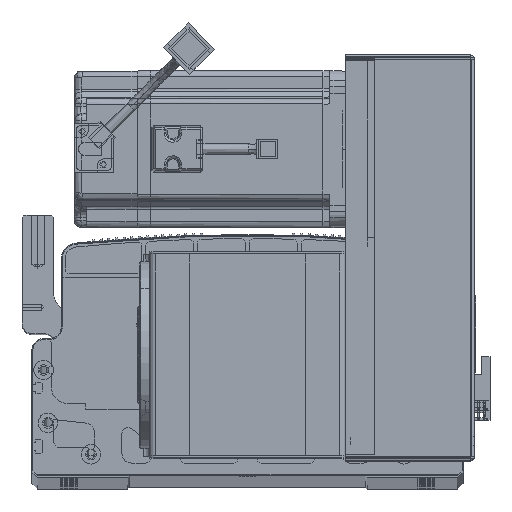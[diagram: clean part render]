
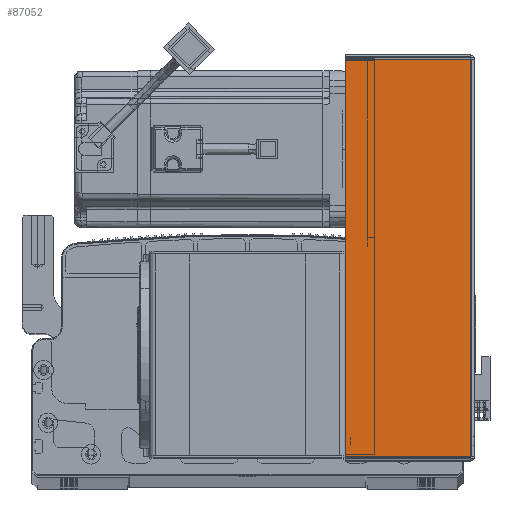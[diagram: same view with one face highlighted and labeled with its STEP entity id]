
A CAD part, top view. The second image highlights one B-rep face of the part: STEP entity #87052.
In plain terms, the highlighted planar face has unit normal (0, 0, 1) as drawn and (0, -1, 0) by its records, which use the part's own axes.
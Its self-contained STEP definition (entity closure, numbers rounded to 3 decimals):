
#889 = VERTEX_POINT ( 'NONE', #94858 ) ;
#2545 = VECTOR ( 'NONE', #24759, 1000. ) ;
#4150 = VERTEX_POINT ( 'NONE', #92976 ) ;
#6612 = DIRECTION ( 'NONE',  ( 1., 0., 0. ) ) ;
#19074 = CARTESIAN_POINT ( 'NONE',  ( 64.5, -1.5, -203.293 ) ) ;
#19758 = DIRECTION ( 'NONE',  ( 0., 1., 0. ) ) ;
#23510 = ORIENTED_EDGE ( 'NONE', *, *, #36432, .F. ) ;
#23729 = EDGE_CURVE ( 'NONE', #90816, #4150, #82303, .T. ) ;
#24759 = DIRECTION ( 'NONE',  ( 1., 0., 0. ) ) ;
#27215 = DIRECTION ( 'NONE',  ( -1., 0., 0. ) ) ;
#35383 = LINE ( 'NONE', #87051, #2545 ) ;
#36432 = EDGE_CURVE ( 'NONE', #889, #75562, #57583, .T. ) ;
#37220 = EDGE_CURVE ( 'NONE', #75562, #4150, #35383, .T. ) ;
#37379 = LINE ( 'NONE', #52497, #55605 ) ;
#38443 = ORIENTED_EDGE ( 'NONE', *, *, #37220, .F. ) ;
#40059 = EDGE_CURVE ( 'NONE', #889, #90816, #37379, .T. ) ;
#42214 = CARTESIAN_POINT ( 'NONE',  ( 0., -1.5, 0. ) ) ;
#47991 = AXIS2_PLACEMENT_3D ( 'NONE', #42214, #19758, #27215 ) ;
#52497 = CARTESIAN_POINT ( 'NONE',  ( 0., -1.5, -203.293 ) ) ;
#53409 = EDGE_LOOP ( 'NONE', ( #23510, #92585, #99593, #38443 ) ) ;
#55605 = VECTOR ( 'NONE', #6612, 1000. ) ;
#57583 = LINE ( 'NONE', #84805, #96470 ) ;
#73431 = FACE_OUTER_BOUND ( 'NONE', #53409, .T. ) ;
#74354 = CARTESIAN_POINT ( 'NONE',  ( 0.737, -1.5, -0.707 ) ) ;
#75562 = VERTEX_POINT ( 'NONE', #74354 ) ;
#77962 = CARTESIAN_POINT ( 'NONE',  ( 64.5, -1.5, 0. ) ) ;
#81705 = PLANE ( 'NONE',  #47991 ) ;
#82303 = LINE ( 'NONE', #77962, #96914 ) ;
#84477 = DIRECTION ( 'NONE',  ( 0., 0., 1. ) ) ;
#84805 = CARTESIAN_POINT ( 'NONE',  ( 0.737, -1.5, 0. ) ) ;
#87052 = ADVANCED_FACE ( 'NONE', ( #73431 ), #81705, .F. ) ;
#87051 = CARTESIAN_POINT ( 'NONE',  ( 0., -1.5, -0.707 ) ) ;
#90816 = VERTEX_POINT ( 'NONE', #19074 ) ;
#92569 = DIRECTION ( 'NONE',  ( 0., 0., 1. ) ) ;
#92585 = ORIENTED_EDGE ( 'NONE', *, *, #40059, .T. ) ;
#92976 = CARTESIAN_POINT ( 'NONE',  ( 64.5, -1.5, -0.707 ) ) ;
#94858 = CARTESIAN_POINT ( 'NONE',  ( 0.737, -1.5, -203.293 ) ) ;
#96470 = VECTOR ( 'NONE', #84477, 1000. ) ;
#96914 = VECTOR ( 'NONE', #92569, 1000. ) ;
#99593 = ORIENTED_EDGE ( 'NONE', *, *, #23729, .T. ) ;
